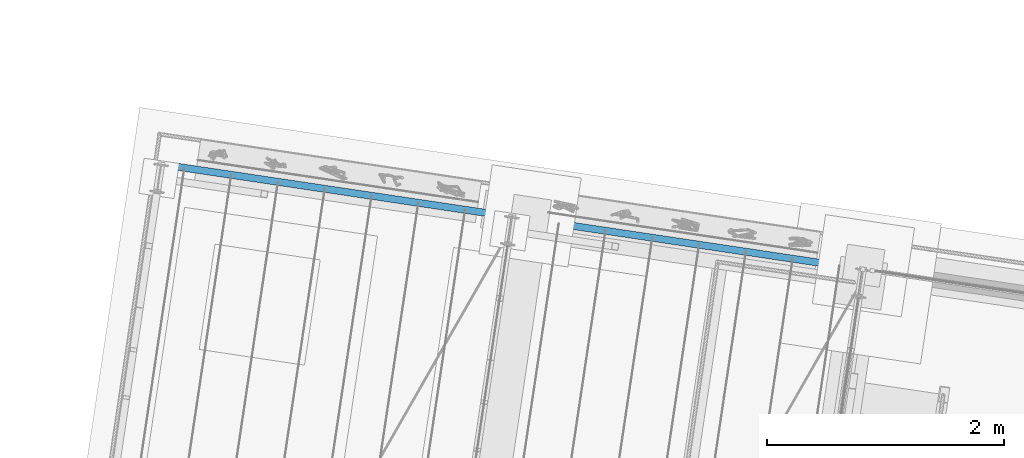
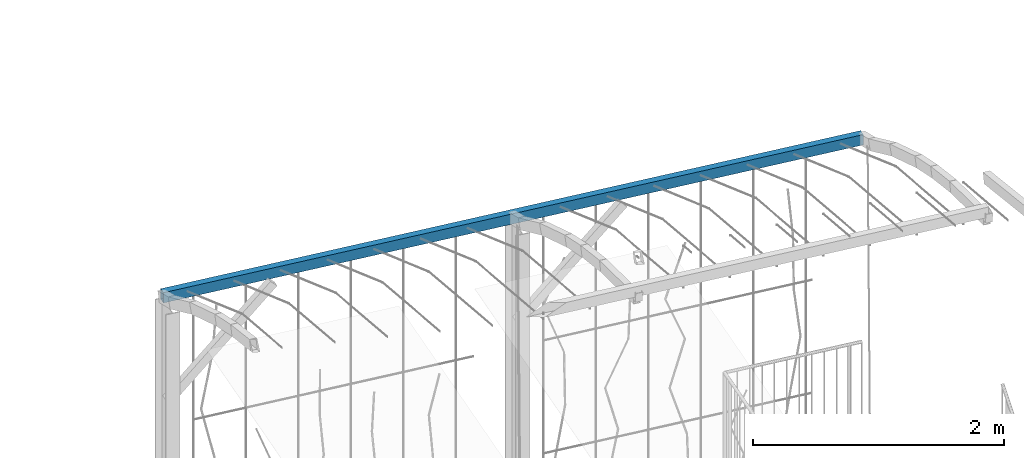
# One storey, part 38 of 142: 1 beam, 1 element without a shape of its own.
"""IFC4 building model written with IfcOpenShell, lengths in metres."""

import ifcopenshell
import ifcopenshell.guid

model = None  # the IFC model being written
_history = None  # IfcOwnerHistory: only IFC2X3 demands one
_inside = {}  # id of a spatial element -> (the spatial element, [elements in it])
_under = {}  # id of a project, library or spatial element -> (it, [spatial elements below it])
_declared = {}  # id of a project -> (the project, [libraries it declares])
_typed = {}  # id of a type object -> (the type object, [elements of that type])
_made_of = {}  # id of a material, layer set ... -> (it, [elements and type objects made of it])


def new_model(schema):
    """Start an empty IFC model of exactly this schema.

    Asked for "IFC4X3", IfcOpenShell would pick the latest addendum, in which some entities
    have other attributes; the version numbers below select the first issue.
    IFC2X3 requires an IfcOwnerHistory on every rooted entity: one is made here for all.
    """
    global model, _history
    if schema == "IFC4X3":
        model = ifcopenshell.file(schema_version=(4, 3, 0, 0))
    else:
        model = ifcopenshell.file(schema=schema)
    _inside.clear()
    _under.clear()
    _declared.clear()
    _typed.clear()
    _made_of.clear()
    _history = None
    if model.schema == "IFC2X3":
        org = make("IfcOrganization", Name="unknown")
        user = make(
            "IfcPersonAndOrganization",
            ThePerson=make("IfcPerson", FamilyName="unknown"),
            TheOrganization=org,
        )
        app = make(
            "IfcApplication",
            ApplicationDeveloper=org,
            Version="unknown",
            ApplicationFullName="unknown",
            ApplicationIdentifier="unknown",
        )
        _history = make(
            "IfcOwnerHistory",
            OwningUser=user,
            OwningApplication=app,
            ChangeAction="ADDED",
            CreationDate=0,
        )
    return model


def make(cls, **values):
    """One entity of the class cls with the attributes given. An attribute that is None is left unset."""
    return model.create_entity(
        cls, **{name: value for name, value in values.items() if value is not None}
    )


def rooted(cls, **values):
    """An entity with a GlobalId (a new one), such as an element, a storey or a relation."""
    return make(cls, GlobalId=ifcopenshell.guid.new(), OwnerHistory=_history, **values)


def si_unit(unit_type, name, prefix=None):
    """IfcSIUnit, for example si_unit("LENGTHUNIT", "METRE", prefix="MILLI")."""
    return make("IfcSIUnit", UnitType=unit_type, Prefix=prefix, Name=name)


def assignment(units):
    """IfcUnitAssignment: the units of a project."""
    return None if units is None else make("IfcUnitAssignment", Units=units)


def point(xyz):
    """IfcCartesianPoint."""
    return None if xyz is None else make("IfcCartesianPoint", Coordinates=xyz)


def direction(xyz):
    """IfcDirection."""
    return None if xyz is None else make("IfcDirection", DirectionRatios=xyz)


def frame(location, z_axis=None, x_axis=None):
    """IfcAxis2Placement3D, a coordinate frame: its origin and axes. An axis left out is left unset."""
    return make(
        "IfcAxis2Placement3D",
        Location=point(location),
        Axis=direction(z_axis),
        RefDirection=direction(x_axis),
    )


def origin_with_axes():
    """The frame at (0, 0, 0) with the z axis (0, 0, 1) and the x axis (1, 0, 0) written out."""
    return frame((0.0, 0.0, 0.0), z_axis=(0.0, 0.0, 1.0), x_axis=(1.0, 0.0, 0.0))


def place(relative_to, where):
    """IfcLocalPlacement: puts the frame where relative to a parent placement (None: the world)."""
    return make(
        "IfcLocalPlacement", PlacementRelTo=relative_to, RelativePlacement=where
    )


def context(
    kind, dimensions, precision=None, world=None, true_north=None, identifier=None
):
    """IfcGeometricRepresentationContext, for example the 3D "Model" context."""
    return make(
        "IfcGeometricRepresentationContext",
        ContextIdentifier=identifier,
        ContextType=kind,
        CoordinateSpaceDimension=dimensions,
        Precision=precision,
        WorldCoordinateSystem=world,
        TrueNorth=true_north,
    )


def subcontext(parent, identifier, kind, view, scale=None):
    """IfcGeometricRepresentationSubContext, for example "Body" below "Model"."""
    return make(
        "IfcGeometricRepresentationSubContext",
        ContextIdentifier=identifier,
        ContextType=kind,
        ParentContext=parent,
        TargetScale=scale,
        TargetView=view,
    )


def project(units=None, contexts=None):
    """IfcProject with its units and contexts."""
    return rooted(
        "IfcProject",
        Name="project",
        RepresentationContexts=contexts,
        UnitsInContext=assignment(units),
    )


def spatial(cls, under=None, at=None, **own):
    """A site, building, storey or space (cls), placed at a placement, below another one or the project."""
    s = rooted(cls, ObjectPlacement=at, **own)
    if under is not None:
        _under.setdefault(under.id(), (under, []))[1].append(s)
    return s


def profile(cls, at=None, kind="AREA", **sizes):
    """A parametric profile (cls). Its sizes go by their IFC names, for example OverallWidth=200.0."""
    return make(cls, ProfileType=kind, Position=at, **sizes)


def hollow_rectangle(**sizes):
    """IfcRectangleHollowProfileDef."""
    return profile("IfcRectangleHollowProfileDef", **sizes)


def extrude(swept, where, along, depth):
    """IfcExtrudedAreaSolid: the profile swept, set in the frame where, extruded along a direction by depth."""
    return make(
        "IfcExtrudedAreaSolid",
        SweptArea=swept,
        Position=where,
        ExtrudedDirection=direction(along),
        Depth=depth,
    )


def shape(context_of_items, identifier, shape_type, items):
    """IfcShapeRepresentation: the items that make up one representation, for example the "Body"."""
    return make(
        "IfcShapeRepresentation",
        ContextOfItems=context_of_items,
        RepresentationIdentifier=identifier,
        RepresentationType=shape_type,
        Items=items,
    )


def material(Name=None, Category=None):
    """IfcMaterial."""
    return make("IfcMaterial", Name=Name, Category=Category)


def material_profile(
    of_material, cross_section, Name=None, Category=None, Priority=None
):
    """IfcMaterialProfile: a cross section and its material."""
    return make(
        "IfcMaterialProfile",
        Name=Name,
        Material=of_material,
        Profile=cross_section,
        Priority=Priority,
        Category=Category,
    )


def profile_set(profiles, Name=None, composite=None):
    """IfcMaterialProfileSet."""
    return make(
        "IfcMaterialProfileSet",
        Name=Name,
        MaterialProfiles=profiles,
        CompositeProfile=composite,
    )


def profile_usage(for_profile_set, cardinal=None, extent=None):
    """IfcMaterialProfileSetUsage: how a profile set lies along its element."""
    return make(
        "IfcMaterialProfileSetUsage",
        ForProfileSet=for_profile_set,
        CardinalPoint=cardinal,
        ReferenceExtent=extent,
    )


def made_of(thing, what):
    """Note that an element or type object is made of a material, layer set ...; save() writes the relation."""
    if what is not None:
        _made_of.setdefault(what.id(), (what, []))[1].append(thing)
    return thing


def type_object(cls, material=None, **own):
    """A type object (cls), such as IfcWallType, which elements share."""
    return made_of(rooted(cls, **own), material)


def element(
    cls,
    number,
    at=None,
    inside=None,
    cuts=None,
    type_object=None,
    material=None,
    context=None,
    identifier="Body",
    shape_type=None,
    held_by="IfcProductDefinitionShape",
    body=None,
    shapes=None,
    **own,
):
    """One element of the class cls, such as IfcWall. Its Tag is "e" and its number.

    at: its placement. inside: the storey or other place that contains it. cuts: it is an
    opening in that element (IfcRelVoidsElement). A single representation is given by context,
    identifier, shape_type and body (its items); several are given by shapes. held_by: the class
    of the entity that holds the representations. save() writes the other relations.
    """
    e = rooted(cls, Tag="e%d" % number, ObjectPlacement=at, **own)
    if body is not None:
        shapes = [shape(context, identifier, shape_type, body)]
    if shapes is not None:
        e.Representation = make(held_by, Representations=shapes)
    if inside is not None:
        _inside.setdefault(inside.id(), (inside, []))[1].append(e)
    if cuts is not None:
        rooted(
            "IfcRelVoidsElement", RelatingBuildingElement=cuts, RelatedOpeningElement=e
        )
    if type_object is not None:
        _typed.setdefault(type_object.id(), (type_object, []))[1].append(e)
    return made_of(e, material)


def aggregate(whole, parts):
    """IfcRelAggregates: a whole, such as a stair, and the parts it consists of."""
    return rooted("IfcRelAggregates", RelatingObject=whole, RelatedObjects=parts)


def save(model, path):
    """Write the relations noted so far, then the file.

    IfcRelAggregates (storeys below a building ...), IfcRelContainedInSpatialStructure (elements
    in a storey), IfcRelDefinesByType, IfcRelAssociatesMaterial and IfcRelDeclares: one each for
    every whole, place, type object, material and project.
    """
    for whole, parts in _under.values():
        aggregate(whole, parts)
    for where, things in _inside.values():
        rooted(
            "IfcRelContainedInSpatialStructure",
            RelatedElements=things,
            RelatingStructure=where,
        )
    for kind, things in _typed.values():
        rooted("IfcRelDefinesByType", RelatedObjects=things, RelatingType=kind)
    for what, things in _made_of.values():
        rooted("IfcRelAssociatesMaterial", RelatedObjects=things, RelatingMaterial=what)
    for by, libraries in _declared.values():
        rooted("IfcRelDeclares", RelatingContext=by, RelatedDefinitions=libraries)
    model.write(path)


model = new_model("IFC4")

# Units and contexts
model_context = context("Model", 3, precision=1e-05, world=origin_with_axes(), true_north=direction((0.0, 1.0)))
body_context = subcontext(model_context, "Body", "Model", "MODEL_VIEW")
ifc_project = project(units=[si_unit("AREAUNIT", "SQUARE_METRE"), si_unit("VOLUMEUNIT", "CUBIC_METRE"), si_unit("LENGTHUNIT", "METRE")], contexts=[model_context])

# Site, building, storey
site_placement = place(None, origin_with_axes())
site = spatial("IfcSite", under=ifc_project, at=site_placement, Name="Lares · Rua das Mercês · artigo 4771")
building_placement = place(site_placement, frame((15.0, 9.7, 14.65), z_axis=(0.0, 0.0, 1.0), x_axis=(0.989015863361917, -0.147809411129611, 0.0)))
building = spatial("IfcBuilding", under=site, at=building_placement, Name="Casa Sobreposta")
storey_placement = place(building_placement, origin_with_axes())
storey = spatial("IfcBuildingStorey", under=building, at=storey_placement, Name="00 · Habitação e estacionamento", Elevation=14.65)

# Assembly, beam
assembly_placement = place(storey_placement, origin_with_axes())
assembly = element("IfcElementAssembly", 1, at=assembly_placement, inside=storey, Name="Pérgola · prolongamento da estufa 6 m", ObjectType="PERGOLA_GREENHOUSE_EXTENSION", PredefinedType="USERDEFINED")
ifc_material = material(Name="Aço pintado / Stahl lackiert", Category="steel")
ifc_material_profile = material_profile(ifc_material, hollow_rectangle(XDim=0.06, YDim=0.1, WallThickness=0.004))
ifc_profile_set = profile_set([ifc_material_profile], Name="RHS100x60x4")
ifc_profile_usage = profile_usage(ifc_profile_set)
beam_type = type_object("IfcBeamType", Name="RHS100x60x4 / steel", PredefinedType="NOTDEFINED", material=ifc_profile_set)
beam_placement = place(assembly_placement, frame((-6.0, 6.39999999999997, 6.23430000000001), z_axis=(1.0, 0.0, 0.0), x_axis=(0.0, -1.0, 0.0)))
beam = element("IfcBeam", 2, at=beam_placement, type_object=beam_type, material=ifc_profile_usage, Name="Pérgola · terça", context=body_context, shape_type="SweptSolid", body=[
    extrude(hollow_rectangle(XDim=0.06, YDim=0.1, WallThickness=0.004), origin_with_axes(), (0.0, 0.0, 1.0), 6.0),
])
aggregate(assembly, [beam])

save(model, "model.ifc")
